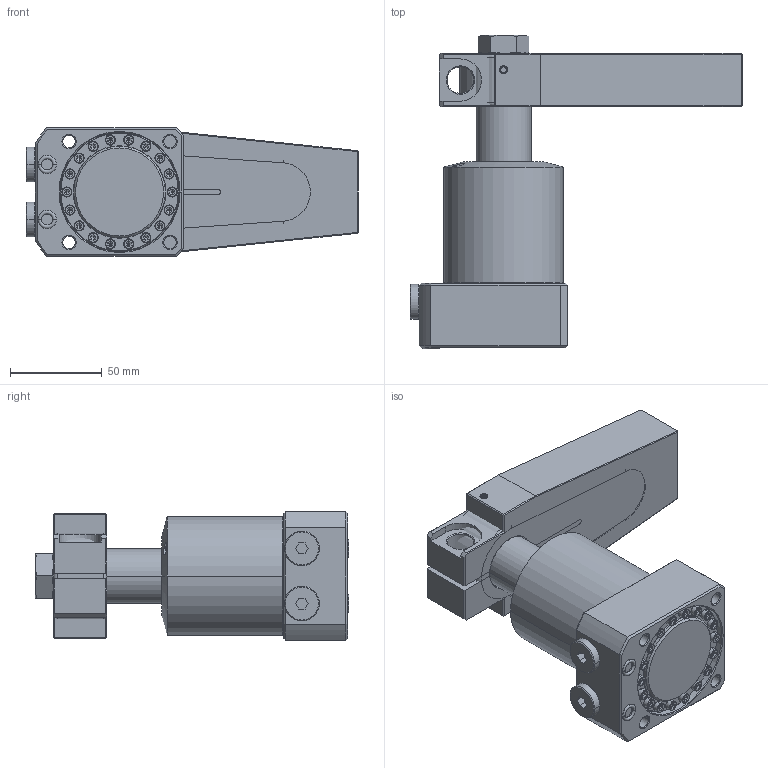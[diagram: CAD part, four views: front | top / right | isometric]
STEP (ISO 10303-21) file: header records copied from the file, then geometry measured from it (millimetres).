
FILE_DESCRIPTION((''),'2;1');
FILE_NAME('SIMP_GENERIC_SWING_CYD_65_ASM','2023-04-16T11:44:31',('Design 2'),(''),'CREO PARAMETRIC BY PTC INC, 2020053','CREO PARAMETRIC BY PTC INC, 2020053','');
FILE_SCHEMA(('CONFIG_CONTROL_DESIGN'));
Length unit declared in the file: millimetre
Products named in the file (16): BODY__; BODY_TOP_FLG___ASM; PISTON__; PISTON_ASM___ASM; SWINGER_ARM__; SWINGER_ARM_ASM___ASM; CLAMP__; HEXAGON_NUT__; CLAMP_2ND_TYPE__; G-1-4_CLOSE_PLUG_; STATIC-O-RING-10X2S_; 1____; 2____; HALDER_SEALING-PLUG-228800_00__ASM; ISHCS03X12_; SIMP_GENERIC_SWING_CYD_65_ASM
Assembly tree (34 placements, depth 3):
  SIMP_GENERIC_SWING_CYD_65_ASM
    BODY_TOP_FLG___ASM
      BODY__
    PISTON_ASM___ASM
      PISTON__
    SWINGER_ARM_ASM___ASM
      SWINGER_ARM__
    CLAMP__
    HEXAGON_NUT__
    CLAMP_2ND_TYPE__
    G-1-4_CLOSE_PLUG_  x2
    STATIC-O-RING-10X2S_  x2
    HALDER_SEALING-PLUG-228800_00__ASM
      1____
      2____
    ISHCS03X12_  x18
Bounding box: 181 x 171 x 70 mm (x, y, z)
Volume: 773916 mm3; surface area: 139120.8 mm2
Topology: 30 solids, 30 shells, 1302 faces, 2965 edges, 1745 vertices
Faces by surface type: cylinder 441, plane 412, cone 316, bspline 68, torus 62, sphere 3
Entity records: 35690 total; most frequent: CARTESIAN_POINT 18788, ORIENTED_EDGE 3502, DIRECTION 3302, EDGE_CURVE 1751, AXIS2_PLACEMENT_3D 1257, VERTEX_POINT 1069, EDGE_LOOP 826, VECTOR 788
